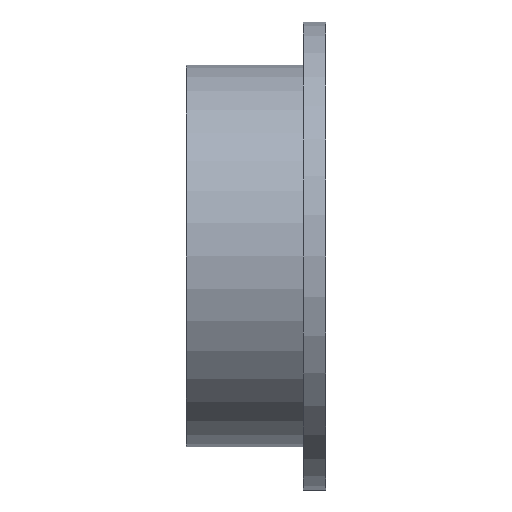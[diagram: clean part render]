
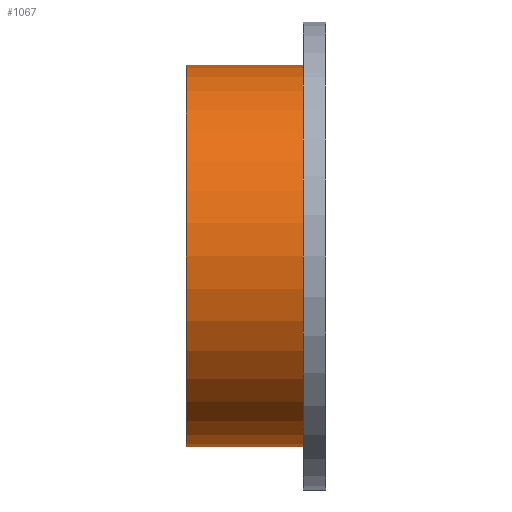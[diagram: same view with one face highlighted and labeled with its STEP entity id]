
A CAD part, left-side view. The second image highlights one B-rep face of the part: STEP entity #1067.
In plain terms, the highlighted cylindrical face has radius 136.5 mm (diameter 273 mm), a partial arc.
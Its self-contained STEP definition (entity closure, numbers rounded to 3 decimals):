
#14 = ORIENTED_EDGE ( 'NONE', *, *, #550, .T. ) ;
#26 = CARTESIAN_POINT ( 'NONE',  ( 0., 100., -136.5 ) ) ;
#88 = DIRECTION ( 'NONE',  ( 0., 0., -1. ) ) ;
#116 = VERTEX_POINT ( 'NONE', #931 ) ;
#139 = CIRCLE ( 'NONE', #1062, 136.5 ) ;
#214 = VERTEX_POINT ( 'NONE', #1304 ) ;
#245 = LINE ( 'NONE', #891, #856 ) ;
#345 = VERTEX_POINT ( 'NONE', #821 ) ;
#383 = EDGE_CURVE ( 'NONE', #754, #345, #245, .T. ) ;
#429 = DIRECTION ( 'NONE',  ( 0., -1., 0. ) ) ;
#438 = DIRECTION ( 'NONE',  ( 0., -1., 0. ) ) ;
#538 = CARTESIAN_POINT ( 'NONE',  ( 0., 100., 0. ) ) ;
#550 = EDGE_CURVE ( 'NONE', #214, #754, #1233, .T. ) ;
#554 = AXIS2_PLACEMENT_3D ( 'NONE', #828, #841, #88 ) ;
#661 = DIRECTION ( 'NONE',  ( 0., 0., -1. ) ) ;
#679 = ORIENTED_EDGE ( 'NONE', *, *, #383, .T. ) ;
#730 = ORIENTED_EDGE ( 'NONE', *, *, #1220, .F. ) ;
#754 = VERTEX_POINT ( 'NONE', #26 ) ;
#755 = DIRECTION ( 'NONE',  ( 0., -1., 0. ) ) ;
#781 = EDGE_LOOP ( 'NONE', ( #1242, #14, #679, #730 ) ) ;
#788 = AXIS2_PLACEMENT_3D ( 'NONE', #538, #429, #1159 ) ;
#821 = CARTESIAN_POINT ( 'NONE',  ( 0., 10., -136.5 ) ) ;
#823 = CARTESIAN_POINT ( 'NONE',  ( 0., 0., 136.5 ) ) ;
#828 = CARTESIAN_POINT ( 'NONE',  ( 0., 0., 0. ) ) ;
#834 = LINE ( 'NONE', #823, #1310 ) ;
#841 = DIRECTION ( 'NONE',  ( 0., -1., 0. ) ) ;
#856 = VECTOR ( 'NONE', #438, 1000. ) ;
#891 = CARTESIAN_POINT ( 'NONE',  ( 0., 0., -136.5 ) ) ;
#931 = CARTESIAN_POINT ( 'NONE',  ( 0., 10., 136.5 ) ) ;
#979 = CARTESIAN_POINT ( 'NONE',  ( 0., 10., 0. ) ) ;
#1059 = CYLINDRICAL_SURFACE ( 'NONE', #554, 136.5 ) ;
#1062 = AXIS2_PLACEMENT_3D ( 'NONE', #979, #755, #661 ) ;
#1067 = ADVANCED_FACE ( 'NONE', ( #1129 ), #1059, .T. ) ;
#1127 = EDGE_CURVE ( 'NONE', #214, #116, #834, .T. ) ;
#1129 = FACE_OUTER_BOUND ( 'NONE', #781, .T. ) ;
#1159 = DIRECTION ( 'NONE',  ( 0., 0., -1. ) ) ;
#1220 = EDGE_CURVE ( 'NONE', #116, #345, #139, .T. ) ;
#1233 = CIRCLE ( 'NONE', #788, 136.5 ) ;
#1242 = ORIENTED_EDGE ( 'NONE', *, *, #1127, .F. ) ;
#1304 = CARTESIAN_POINT ( 'NONE',  ( 0., 100., 136.5 ) ) ;
#1310 = VECTOR ( 'NONE', #1350, 1000. ) ;
#1350 = DIRECTION ( 'NONE',  ( 0., -1., 0. ) ) ;
